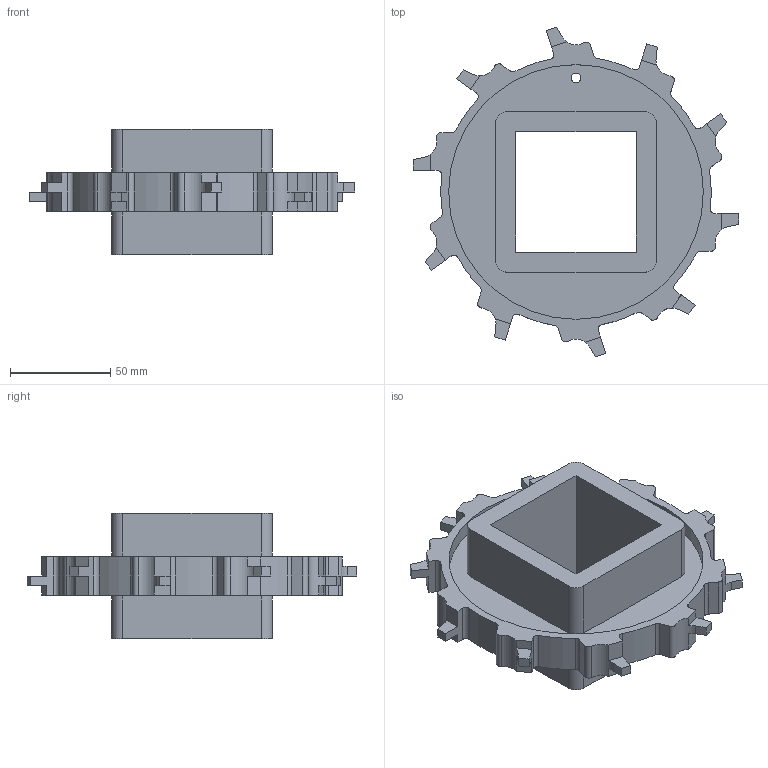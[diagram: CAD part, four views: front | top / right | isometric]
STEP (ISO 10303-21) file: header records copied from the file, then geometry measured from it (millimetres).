
FILE_DESCRIPTION((''),'2;1');
FILE_NAME('S200_SPROCKET_64X25_60_SQ','2008-12-12T',('jmumphre'),(''),'PRO/ENGINEER BY PARAMETRIC TECHNOLOGY CORPORATION, 2008150','PRO/ENGINEER BY PARAMETRIC TECHNOLOGY CORPORATION, 2008150','');
FILE_SCHEMA(('CONFIG_CONTROL_DESIGN'));
Length unit declared in the file: inch
Products named in the file (1): S200_SPROCKET_64X25_60_SQ
Bounding box: 162.5 x 164.56 x 62.48 mm (x, y, z)
Volume: 261604.3 mm3; surface area: 75035.9 mm2
Topology: 1 solids, 1 shells, 162 faces, 468 edges, 312 vertices
Faces by surface type: plane 98, cylinder 64
Entity records: 5408 total; most frequent: CARTESIAN_POINT 942, DIRECTION 940, ORIENTED_EDGE 936, EDGE_CURVE 468, VECTOR 320, LINE 320, VERTEX_POINT 312, AXIS2_PLACEMENT_3D 310
